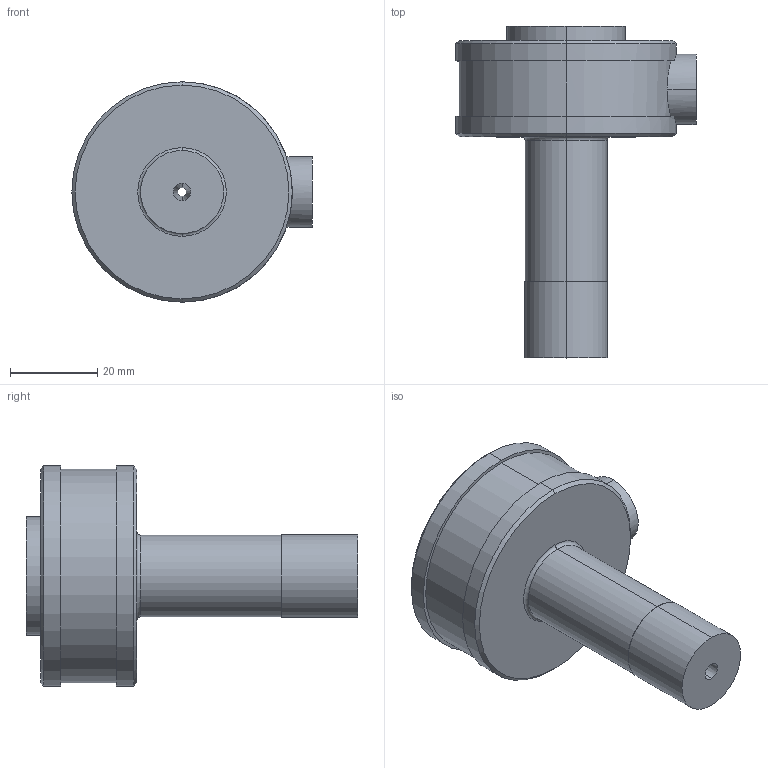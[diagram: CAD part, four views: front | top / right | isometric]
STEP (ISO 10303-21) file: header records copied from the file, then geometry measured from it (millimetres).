
FILE_DESCRIPTION (( 'STEP AP203' ), '1' );
FILE_NAME ('SB030005.STEP', '2009-05-05T17:44:41', ( 'Frank J. Eigler' ), ( 'DME' ), 'SwSTEP 2.0', 'SolidWorks 2009', '' );
FILE_SCHEMA (( 'CONFIG_CONTROL_DESIGN' ));
Length unit declared in the file: inch
Products named in the file (1): SB030005
Bounding box: 55.12 x 76.1 x 50.55 mm (x, y, z)
Volume: 58276.4 mm3; surface area: 12100.3 mm2
Topology: 1 solids, 1 shells, 37 faces, 92 edges, 58 vertices
Faces by surface type: cylinder 17, plane 8, cone 6, sphere 4, torus 2
Entity records: 1277 total; most frequent: CARTESIAN_POINT 278, DIRECTION 218, ORIENTED_EDGE 180, AXIS2_PLACEMENT_3D 96, EDGE_CURVE 90, VERTEX_POINT 58, CIRCLE 58, EDGE_LOOP 42
